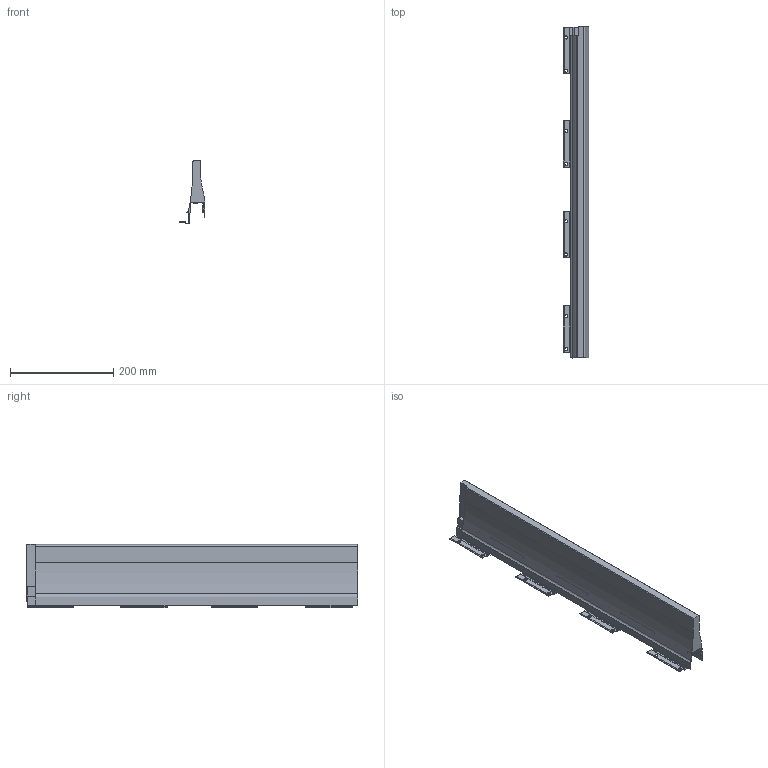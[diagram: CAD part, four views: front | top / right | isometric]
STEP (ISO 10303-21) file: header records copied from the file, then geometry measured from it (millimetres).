
FILE_DESCRIPTION (( 'STEP AP214' ), '1' );
FILE_NAME ('XP Standard Dekorseite H127 NL650 RE .step', '2010-09-21T09:46:19', ( 'grass' ), ( '' ), 'SwSTEP 2.0', 'SolidWorks 2010', '' );
FILE_SCHEMA (( 'AUTOMOTIVE_DESIGN' ));
Length unit declared in the file: millimetre
Products named in the file (1): XP Standard Dekorseite H127 NL650 RE 
Bounding box: 50.01 x 641.5 x 122 mm (x, y, z)
Volume: 1111113.4 mm3; surface area: 251823.6 mm2
Topology: 1 solids, 1 shells, 163 faces, 480 edges, 312 vertices
Faces by surface type: plane 129, cylinder 34
Entity records: 5434 total; most frequent: ORIENTED_EDGE 960, CARTESIAN_POINT 956, DIRECTION 878, EDGE_CURVE 480, LINE 410, VECTOR 410, VERTEX_POINT 312, AXIS2_PLACEMENT_3D 234
